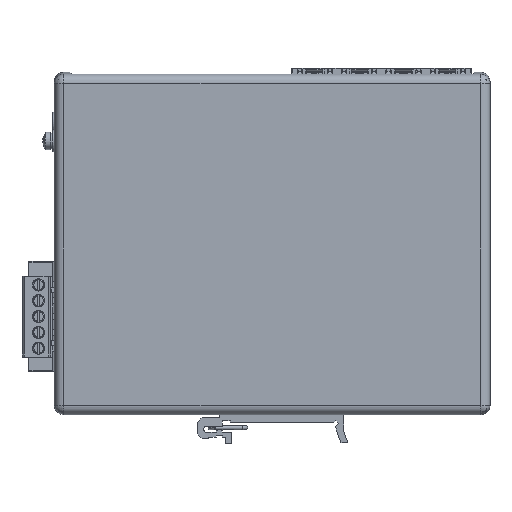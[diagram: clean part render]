
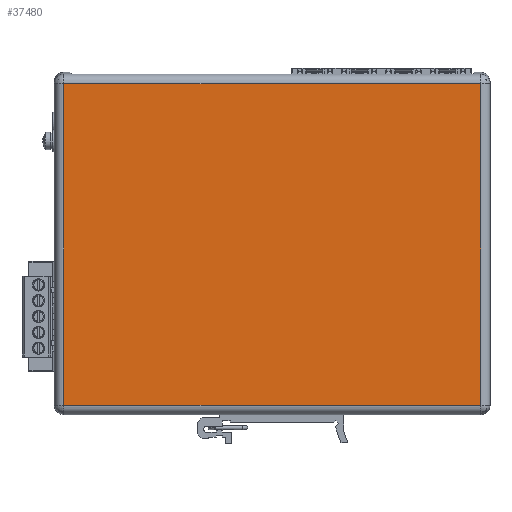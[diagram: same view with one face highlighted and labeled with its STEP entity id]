
A CAD part, front view. The second image highlights one B-rep face of the part: STEP entity #37480.
In plain terms, the highlighted planar face has unit normal (0, -1, 0).
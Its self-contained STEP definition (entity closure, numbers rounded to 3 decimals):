
#36161=CARTESIAN_POINT('',(-67.,-26.,-52.));
#36162=VERTEX_POINT('',#36161);
#36625=CARTESIAN_POINT('',(67.,-26.,-52.));
#36626=VERTEX_POINT('',#36625);
#36680=CARTESIAN_POINT('',(67.,-26.,51.397));
#36681=VERTEX_POINT('',#36680);
#37030=CARTESIAN_POINT('',(-67.,-26.,-52.));
#37031=DIRECTION('',(1.,0.,-0.));
#37032=VECTOR('',#37031,134.);
#37033=LINE('',#37030,#37032);
#37034=EDGE_CURVE('',#36162,#36626,#37033,.T.);
#37046=CARTESIAN_POINT('',(-67.,-26.,51.397));
#37047=VERTEX_POINT('',#37046);
#37048=CARTESIAN_POINT('',(-67.,-26.,51.397));
#37049=DIRECTION('',(-0.,-0.,-1.));
#37050=VECTOR('',#37049,103.397);
#37051=LINE('',#37048,#37050);
#37052=EDGE_CURVE('',#37047,#36162,#37051,.T.);
#37454=CARTESIAN_POINT('',(67.,-26.,-52.));
#37455=DIRECTION('',(0.,0.,1.));
#37456=VECTOR('',#37455,103.397);
#37457=LINE('',#37454,#37456);
#37458=EDGE_CURVE('',#36626,#36681,#37457,.T.);
#37464=CARTESIAN_POINT('',(-70.,-26.,-55.));
#37465=DIRECTION('',(0.,-1.,0.));
#37466=DIRECTION('',(1.,0.,0.));
#37467=AXIS2_PLACEMENT_3D('',#37464,#37465,#37466);
#37468=PLANE('',#37467);
#37469=ORIENTED_EDGE('',*,*,#37458,.T.);
#37470=CARTESIAN_POINT('',(67.,-26.,51.397));
#37471=DIRECTION('',(-1.,-0.,0.));
#37472=VECTOR('',#37471,134.);
#37473=LINE('',#37470,#37472);
#37474=EDGE_CURVE('',#36681,#37047,#37473,.T.);
#37475=ORIENTED_EDGE('',*,*,#37474,.T.);
#37476=ORIENTED_EDGE('',*,*,#37052,.T.);
#37477=ORIENTED_EDGE('',*,*,#37034,.T.);
#37478=EDGE_LOOP('',(#37469,#37475,#37476,#37477));
#37479=FACE_BOUND('',#37478,.T.);
#37480=ADVANCED_FACE('',(#37479),#37468,.T.);
